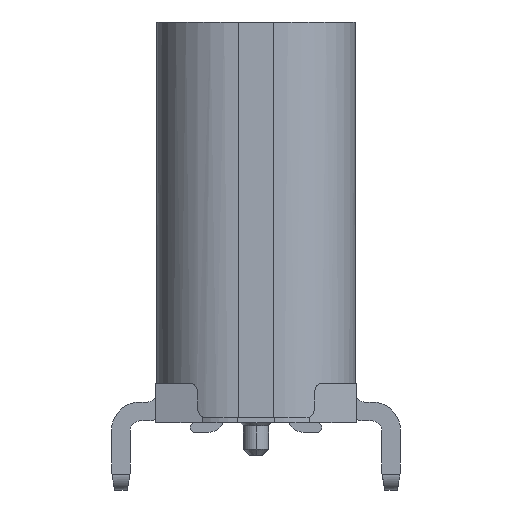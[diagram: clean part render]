
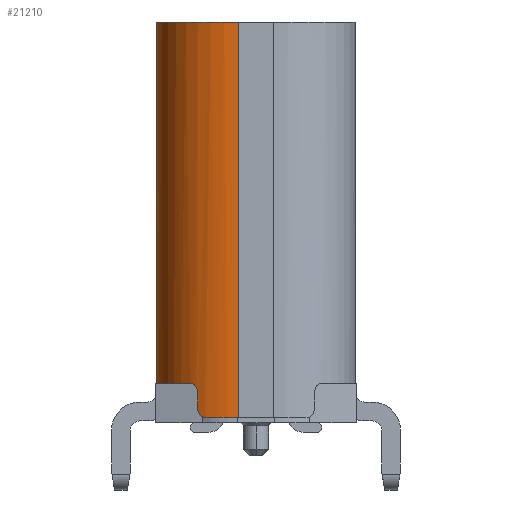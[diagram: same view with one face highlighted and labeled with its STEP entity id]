
A CAD part, left-side view. The second image highlights one B-rep face of the part: STEP entity #21210.
In plain terms, the highlighted cylindrical face has radius 1.3 mm (diameter 2.6 mm), a partial arc.
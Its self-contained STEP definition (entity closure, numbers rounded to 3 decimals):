
#2286=CARTESIAN_POINT('',(-3.17,0.28,-0.85));
#2287=DIRECTION('',(0.,0.,1.));
#2288=DIRECTION('',(0.,1.,0.));
#2289=AXIS2_PLACEMENT_3D('',#2286,#2287,#2288);
#3463=CARTESIAN_POINT('',(-3.17,0.28,4.9));
#3464=DIRECTION('',(0.,0.,-1.));
#3465=DIRECTION('',(-1.,0.,0.));
#3466=AXIS2_PLACEMENT_3D('',#3463,#3464,#3465);
#3556=CARTESIAN_POINT('',(-4.213,1.056,-0.85));
#3557=CARTESIAN_POINT('',(-4.223,1.043,
-0.85));
#3558=CARTESIAN_POINT('',(-4.241,1.018,
-0.855));
#3559=CARTESIAN_POINT('',(-4.265,0.982,
-0.877));
#3560=CARTESIAN_POINT('',(-4.282,0.953,
-0.91));
#3561=CARTESIAN_POINT('',(-4.293,0.934,
-0.953));
#3562=CARTESIAN_POINT('',(-4.296,0.93,
-0.984));
#3563=CARTESIAN_POINT('',(-4.296,0.93,
-1.));
#3573=CARTESIAN_POINT('',(-3.17,0.28,-0.85));
#3574=DIRECTION('',(0.,0.,1.));
#3575=DIRECTION('',(-0.502,0.865,0.));
#3576=AXIS2_PLACEMENT_3D('',#3573,#3574,#3575);
#3774=DIRECTION('',(0.,0.,1.));
#3775=VECTOR('',#3774,5.75);
#3776=CARTESIAN_POINT('',(-3.17,1.58,-0.85));
#3777=LINE('',#3776,#3775);
#3778=DIRECTION('',(0.,0.,-1.));
#3779=VECTOR('',#3778,6.3);
#3780=CARTESIAN_POINT('',(-4.47,0.28,4.9));
#3781=LINE('',#3780,#3779);
#3782=DIRECTION('',(0.,0.,1.));
#3783=VECTOR('',#3782,0.25);
#3784=CARTESIAN_POINT('',(-4.296,0.93,
-1.25));
#3785=LINE('',#3784,#3783);
#3786=CARTESIAN_POINT('',(-3.17,0.28,-0.85));
#3787=DIRECTION('',(0.,0.,1.));
#3788=DIRECTION('',(-0.096,0.995,0.));
#3789=AXIS2_PLACEMENT_3D('',#3786,#3787,#3788);
#3977=CARTESIAN_POINT('',(-3.17,0.28,-1.4));
#3978=DIRECTION('',(0.,0.,1.));
#3979=DIRECTION('',(-0.918,0.397,0.));
#3980=AXIS2_PLACEMENT_3D('',#3977,#3978,#3979);
#3996=CARTESIAN_POINT('',(-4.296,0.93,
-1.25));
#3997=CARTESIAN_POINT('',(-4.296,0.93,
-1.265));
#3998=CARTESIAN_POINT('',(-4.298,0.926,
-1.297));
#3999=CARTESIAN_POINT('',(-4.309,0.907,
-1.34));
#4000=CARTESIAN_POINT('',(-4.325,0.878,
-1.373));
#4001=CARTESIAN_POINT('',(-4.344,0.839,
-1.395));
#4002=CARTESIAN_POINT('',(-4.357,0.81,
-1.4));
#4003=CARTESIAN_POINT('',(-4.363,0.796,-1.4));
#15254=CARTESIAN_POINT('',(-4.47,0.28,4.9));
#15255=VERTEX_POINT('',#15254);
#15256=CARTESIAN_POINT('',(-3.17,1.58,4.9));
#15257=VERTEX_POINT('',#15256);
#15282=CARTESIAN_POINT('',(-3.295,1.574,-0.85));
#15283=CARTESIAN_POINT('',(-3.822,1.404,-0.85));
#15284=VERTEX_POINT('',#15282);
#15285=VERTEX_POINT('',#15283);
#15296=CARTESIAN_POINT('',(-3.17,1.58,-0.85));
#15297=VERTEX_POINT('',#15296);
#15298=CARTESIAN_POINT('',(-4.47,0.28,-1.4));
#15299=VERTEX_POINT('',#15298);
#15300=CARTESIAN_POINT('',(-4.363,0.796,-1.4));
#15301=VERTEX_POINT('',#15300);
#15302=VERTEX_POINT('',#3996);
#15303=CARTESIAN_POINT('',(-4.296,0.93,
-1.));
#15304=VERTEX_POINT('',#15303);
#15305=VERTEX_POINT('',#3556);
#21188=CARTESIAN_POINT('',(-3.17,0.28,-1.526));
#21189=DIRECTION('',(0.,0.,1.));
#21190=DIRECTION('',(1.,0.,0.));
#21191=AXIS2_PLACEMENT_3D('',#21188,#21189,#21190);
#21192=CYLINDRICAL_SURFACE('',#21191,1.3);
#21194=ORIENTED_EDGE('',*,*,#21193,.F.);
#21195=ORIENTED_EDGE('',*,*,#19286,.F.);
#21197=ORIENTED_EDGE('',*,*,#21196,.T.);
#21198=ORIENTED_EDGE('',*,*,#20727,.F.);
#21200=ORIENTED_EDGE('',*,*,#21199,.T.);
#21202=ORIENTED_EDGE('',*,*,#21201,.F.);
#21204=ORIENTED_EDGE('',*,*,#21203,.F.);
#21205=ORIENTED_EDGE('',*,*,#21181,.T.);
#21206=ORIENTED_EDGE('',*,*,#20902,.F.);
#21207=ORIENTED_EDGE('',*,*,#20916,.F.);
#21208=EDGE_LOOP('',(#21194,#21195,#21197,#21198,#21200,#21202,#21204,#21205,
#21206,#21207));
#21209=FACE_OUTER_BOUND('',#21208,.F.);
#21210=ADVANCED_FACE('',(#21209),#21192,.T.);
#2290=CIRCLE('',#2289,1.3);
#3467=CIRCLE('',#3466,1.3);
#3564=B_SPLINE_CURVE_WITH_KNOTS('',3,(#3556,#3557,#3558,#3559,#3560,#3561,#3562,
#3563),.UNSPECIFIED.,.F.,.F.,(4,1,1,1,1,4),(0.,0.2,0.4,0.6,0.8,1.),
.UNSPECIFIED.);
#3577=CIRCLE('',#3576,1.3);
#3790=CIRCLE('',#3789,1.3);
#3981=CIRCLE('',#3980,1.3);
#4004=B_SPLINE_CURVE_WITH_KNOTS('',3,(#3996,#3997,#3998,#3999,#4000,#4001,#4002,
#4003),.UNSPECIFIED.,.F.,.F.,(4,1,1,1,1,4),(0.,0.2,0.4,0.6,0.8,1.),
.UNSPECIFIED.);
#19286=EDGE_CURVE('',#15297,#15284,#2290,.T.);
#20727=EDGE_CURVE('',#15255,#15257,#3467,.T.);
#20902=EDGE_CURVE('',#15305,#15304,#3564,.T.);
#20916=EDGE_CURVE('',#15285,#15305,#3577,.T.);
#21181=EDGE_CURVE('',#15302,#15304,#3785,.T.);
#21193=EDGE_CURVE('',#15284,#15285,#3790,.T.);
#21196=EDGE_CURVE('',#15297,#15257,#3777,.T.);
#21199=EDGE_CURVE('',#15255,#15299,#3781,.T.);
#21201=EDGE_CURVE('',#15301,#15299,#3981,.T.);
#21203=EDGE_CURVE('',#15302,#15301,#4004,.T.);
